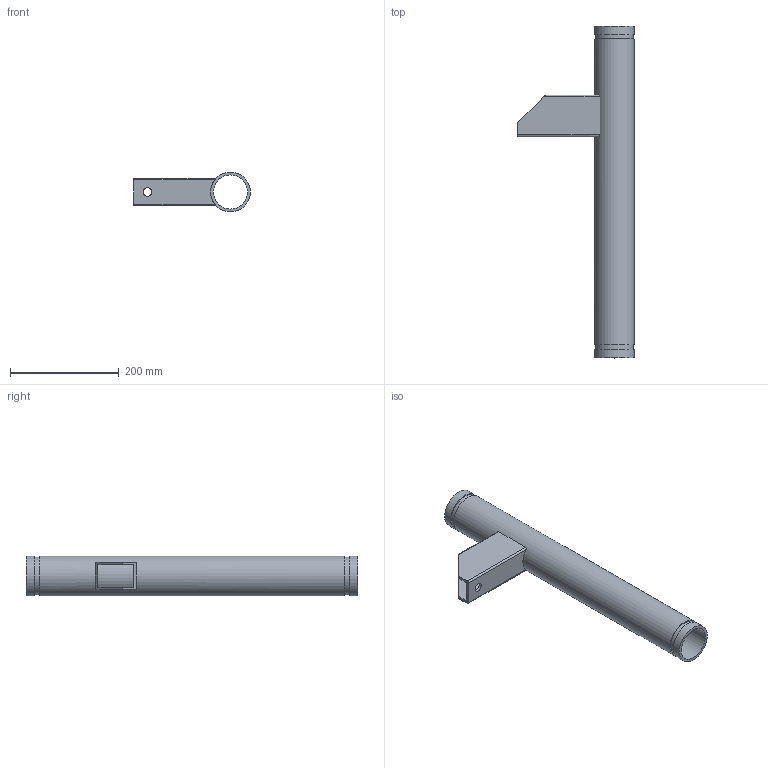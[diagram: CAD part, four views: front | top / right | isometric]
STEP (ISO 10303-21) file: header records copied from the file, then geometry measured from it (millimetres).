
FILE_DESCRIPTION(/* description */ ('VIC FLOOR MOUNTED RISER ANCHOR No A40'),/* implementation_level */ '2;1');
FILE_NAME(/* name */ 'C:\Files for Export\A40 & A40S-STEP-SWX\STEP\Victaulic_IPS_Riser Anchor_No A40 (OGS)\Victaulic_IPS_Riser Anchor_No A40 (OGS)_2.5 (65).stp',/* time_stamp */ '2024-06-07T07:36:19+02:00',/* author */ ('kkamble'),/* organization */ ('Victaulic'),/* preprocessor_version */ 'ST-DEVELOPER v18.1',/* originating_system */ 'Autodesk Inventor 2020',/* authorisation */ '');
FILE_SCHEMA (('AUTOMOTIVE_DESIGN { 1 0 10303 214 3 1 1 }'));
Length unit declared in the file: inch
Products named in the file (1): A40-02.5
Bounding box: 214.31 x 609.6 x 73.03 mm (x, y, z)
Volume: 811230.7 mm3; surface area: 322743.1 mm2
Topology: 1 solids, 1 shells, 28 faces, 78 edges, 56 vertices
Faces by surface type: plane 16, cylinder 12
Full cylindrical faces by diameter (mm): 15.875 x1, 62.738 x1, 69.088 x2, 73.025 x3
Entity records: 1041 total; most frequent: CARTESIAN_POINT 199, DIRECTION 168, ORIENTED_EDGE 156, EDGE_CURVE 78, AXIS2_PLACEMENT_3D 65, VERTEX_POINT 56, LINE 38, VECTOR 38
